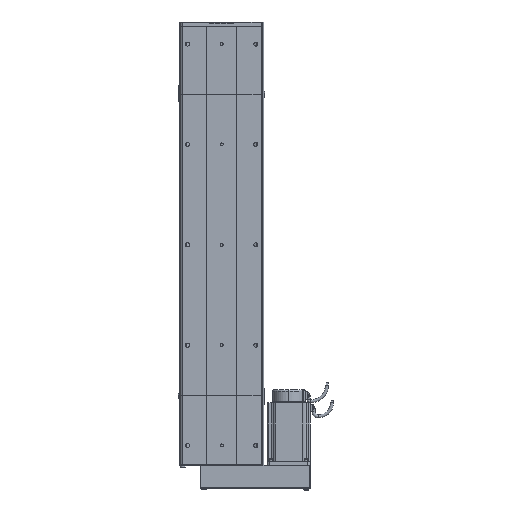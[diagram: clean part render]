
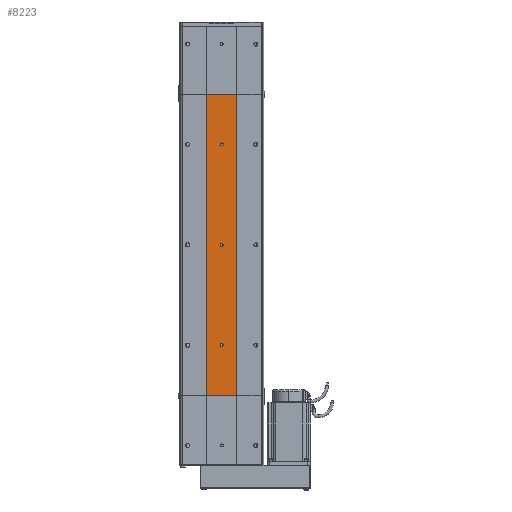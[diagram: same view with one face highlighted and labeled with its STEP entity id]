
A CAD part, front view. The second image highlights one B-rep face of the part: STEP entity #8223.
In plain terms, the highlighted planar face has unit normal (0, -1, 0).
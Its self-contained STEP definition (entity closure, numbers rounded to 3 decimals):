
#5837 = VERTEX_POINT ( 'NONE', #31717 ) ;
#5839 = VERTEX_POINT ( 'NONE', #31716 ) ;
#5845 = VERTEX_POINT ( 'NONE', #31818 ) ;
#5941 = VERTEX_POINT ( 'NONE', #32005 ) ;
#5953 = EDGE_CURVE ( 'NONE', #5845, #5941, #31978, .T. ) ;
#5981 = EDGE_CURVE ( 'NONE', #5839, #5837, #32029, .T. ) ;
#6152 = VERTEX_POINT ( 'NONE', #32474 ) ;
#6254 = EDGE_CURVE ( 'NONE', #6270, #6152, #32706, .T. ) ;
#6270 = VERTEX_POINT ( 'NONE', #32733 ) ;
#7494 = EDGE_CURVE ( 'NONE', #7496, #7521, #52028, .T. ) ;
#7496 = VERTEX_POINT ( 'NONE', #52024 ) ;
#7521 = VERTEX_POINT ( 'NONE', #52018 ) ;
#7806 = EDGE_CURVE ( 'NONE', #7830, #7831, #52309, .T. ) ;
#7830 = VERTEX_POINT ( 'NONE', #52307 ) ;
#7831 = VERTEX_POINT ( 'NONE', #52292 ) ;
#8105 = ORIENTED_EDGE ( 'NONE', *, *, #8228, .F. ) ;
#8187 = ORIENTED_EDGE ( 'NONE', *, *, #5953, .F. ) ;
#8189 = ORIENTED_EDGE ( 'NONE', *, *, #7494, .T. ) ;
#8191 = EDGE_CURVE ( 'NONE', #6152, #6270, #52588, .T. ) ;
#8192 = ORIENTED_EDGE ( 'NONE', *, *, #6254, .F. ) ;
#8194 = ORIENTED_EDGE ( 'NONE', *, *, #8217, .F. ) ;
#8198 = ORIENTED_EDGE ( 'NONE', *, *, #8202, .T. ) ;
#8202 = EDGE_CURVE ( 'NONE', #7830, #7496, #52539, .T. ) ;
#8204 = ORIENTED_EDGE ( 'NONE', *, *, #7806, .F. ) ;
#8213 = EDGE_LOOP ( 'NONE', ( #8189, #8194, #8204, #8198 ) ) ;
#8216 = EDGE_LOOP ( 'NONE', ( #8105, #8225 ) ) ;
#8217 = EDGE_CURVE ( 'NONE', #7831, #7521, #52600, .T. ) ;
#8219 = EDGE_LOOP ( 'NONE', ( #8222, #8187 ) ) ;
#8222 = ORIENTED_EDGE ( 'NONE', *, *, #8230, .F. ) ;
#8223 = ADVANCED_FACE ( 'NONE', ( #52577, #52589, #52583, #52574 ), #52576, .F. ) ;
#8225 = ORIENTED_EDGE ( 'NONE', *, *, #5981, .F. ) ;
#8227 = EDGE_LOOP ( 'NONE', ( #8229, #8192 ) ) ;
#8228 = EDGE_CURVE ( 'NONE', #5837, #5839, #52625, .T. ) ;
#8229 = ORIENTED_EDGE ( 'NONE', *, *, #8191, .F. ) ;
#8230 = EDGE_CURVE ( 'NONE', #5941, #5845, #52615, .T. ) ;
#31716 = CARTESIAN_POINT ( 'NONE',  ( 0., -32.5, 503. ) ) ;
#31717 = CARTESIAN_POINT ( 'NONE',  ( 0., -32.5, 497. ) ) ;
#31818 = CARTESIAN_POINT ( 'NONE',  ( 0., -32.5, 303. ) ) ;
#31961 = DIRECTION ( 'NONE',  ( 0., 0., -1. ) ) ;
#31963 = DIRECTION ( 'NONE',  ( 0., -1., 0. ) ) ;
#31964 = CARTESIAN_POINT ( 'NONE',  ( 0., -32.5, 300. ) ) ;
#31966 = AXIS2_PLACEMENT_3D ( 'NONE', #31964, #31963, #31961 ) ;
#31974 = DIRECTION ( 'NONE',  ( 0., -1., 0. ) ) ;
#31978 = CIRCLE ( 'NONE', #31966, 3. ) ;
#32005 = CARTESIAN_POINT ( 'NONE',  ( 0., -32.5, 297. ) ) ;
#32025 = DIRECTION ( 'NONE',  ( 0., 0., -1. ) ) ;
#32027 = AXIS2_PLACEMENT_3D ( 'NONE', #32033, #31974, #32025 ) ;
#32029 = CIRCLE ( 'NONE', #32027, 3. ) ;
#32033 = CARTESIAN_POINT ( 'NONE',  ( 0., -32.5, 500. ) ) ;
#32474 = CARTESIAN_POINT ( 'NONE',  ( 0., -32.5, 97. ) ) ;
#32679 = DIRECTION ( 'NONE',  ( 0., 0., -1. ) ) ;
#32681 = DIRECTION ( 'NONE',  ( 0., -1., 0. ) ) ;
#32683 = CARTESIAN_POINT ( 'NONE',  ( 0., -32.5, 100. ) ) ;
#32684 = AXIS2_PLACEMENT_3D ( 'NONE', #32683, #32681, #32679 ) ;
#32706 = CIRCLE ( 'NONE', #32684, 3. ) ;
#32733 = CARTESIAN_POINT ( 'NONE',  ( 0., -32.5, 103. ) ) ;
#52018 = CARTESIAN_POINT ( 'NONE',  ( -30., -32.5, 600. ) ) ;
#52019 = DIRECTION ( 'NONE',  ( -1., 0., 0. ) ) ;
#52020 = VECTOR ( 'NONE', #52019, 1000. ) ;
#52021 = CARTESIAN_POINT ( 'NONE',  ( -30., -32.5, 600. ) ) ;
#52024 = CARTESIAN_POINT ( 'NONE',  ( 30., -32.5, 600. ) ) ;
#52028 = LINE ( 'NONE', #52021, #52020 ) ;
#52292 = CARTESIAN_POINT ( 'NONE',  ( -30., -32.5, 0. ) ) ;
#52304 = DIRECTION ( 'NONE',  ( -1., 0., 0. ) ) ;
#52305 = VECTOR ( 'NONE', #52304, 1000. ) ;
#52307 = CARTESIAN_POINT ( 'NONE',  ( 30., -32.5, 0. ) ) ;
#52308 = CARTESIAN_POINT ( 'NONE',  ( -30., -32.5, 0. ) ) ;
#52309 = LINE ( 'NONE', #52308, #52305 ) ;
#52538 = CARTESIAN_POINT ( 'NONE',  ( 30., -32.5, 0. ) ) ;
#52539 = LINE ( 'NONE', #52538, #52582 ) ;
#52569 = DIRECTION ( 'NONE',  ( 0., 0., 1. ) ) ;
#52570 = VECTOR ( 'NONE', #52569, 1000. ) ;
#52571 = CARTESIAN_POINT ( 'NONE',  ( -30., -32.5, 0. ) ) ;
#52572 = AXIS2_PLACEMENT_3D ( 'NONE', #52579, #52619, #52618 ) ;
#52573 = AXIS2_PLACEMENT_3D ( 'NONE', #52590, #52578, #52623 ) ;
#52574 = FACE_OUTER_BOUND ( 'NONE', #8213, .T. ) ;
#52576 = PLANE ( 'NONE',  #52573 ) ;
#52577 = FACE_BOUND ( 'NONE', #8216, .T. ) ;
#52578 = DIRECTION ( 'NONE',  ( 0., 1., 0. ) ) ;
#52579 = CARTESIAN_POINT ( 'NONE',  ( 0., -32.5, 500. ) ) ;
#52581 = DIRECTION ( 'NONE',  ( 0., 0., 1. ) ) ;
#52582 = VECTOR ( 'NONE', #52581, 1000. ) ;
#52583 = FACE_BOUND ( 'NONE', #8227, .T. ) ;
#52584 = DIRECTION ( 'NONE',  ( 0., 0., -1. ) ) ;
#52585 = DIRECTION ( 'NONE',  ( 0., -1., 0. ) ) ;
#52586 = CARTESIAN_POINT ( 'NONE',  ( 0., -32.5, 100. ) ) ;
#52587 = AXIS2_PLACEMENT_3D ( 'NONE', #52586, #52585, #52584 ) ;
#52588 = CIRCLE ( 'NONE', #52587, 3. ) ;
#52589 = FACE_BOUND ( 'NONE', #8219, .T. ) ;
#52590 = CARTESIAN_POINT ( 'NONE',  ( -30., -32.5, 0. ) ) ;
#52600 = LINE ( 'NONE', #52571, #52570 ) ;
#52611 = DIRECTION ( 'NONE',  ( 0., 0., -1. ) ) ;
#52612 = DIRECTION ( 'NONE',  ( 0., -1., 0. ) ) ;
#52613 = CARTESIAN_POINT ( 'NONE',  ( 0., -32.5, 300. ) ) ;
#52614 = AXIS2_PLACEMENT_3D ( 'NONE', #52613, #52612, #52611 ) ;
#52615 = CIRCLE ( 'NONE', #52614, 3. ) ;
#52618 = DIRECTION ( 'NONE',  ( 0., 0., -1. ) ) ;
#52619 = DIRECTION ( 'NONE',  ( 0., -1., 0. ) ) ;
#52623 = DIRECTION ( 'NONE',  ( 0., 0., 1. ) ) ;
#52625 = CIRCLE ( 'NONE', #52572, 3. ) ;
